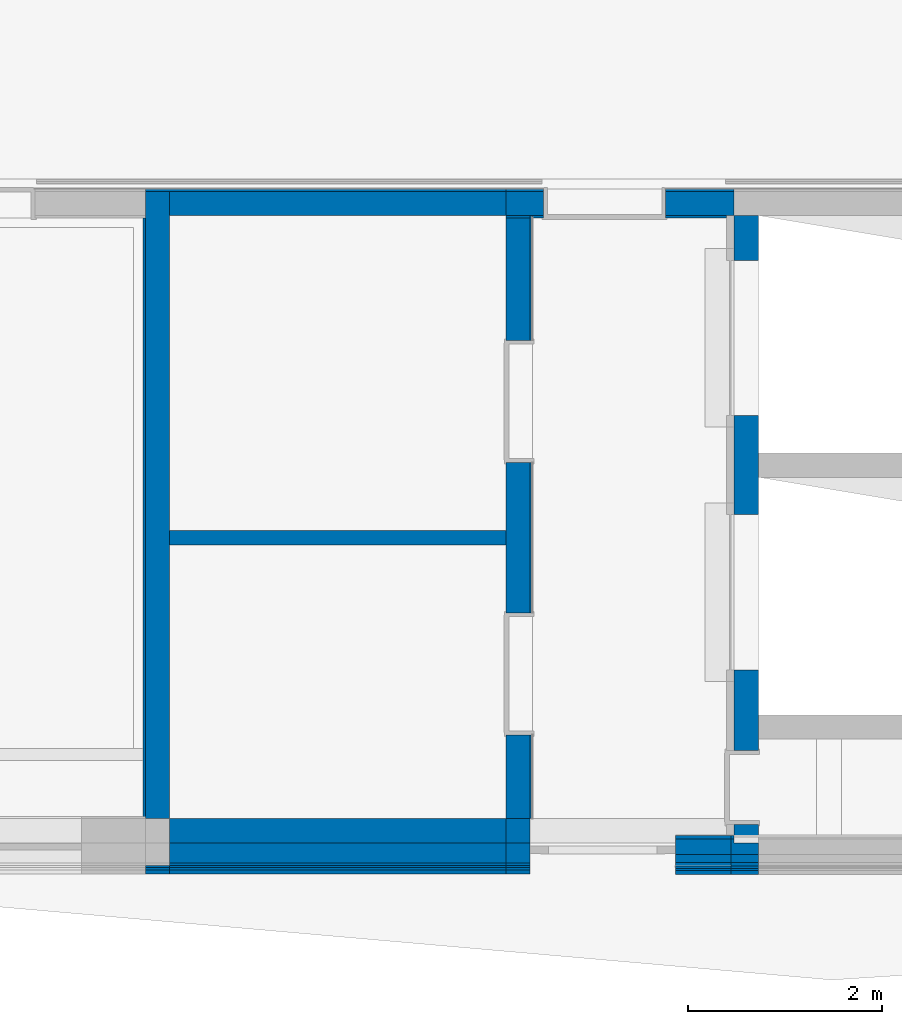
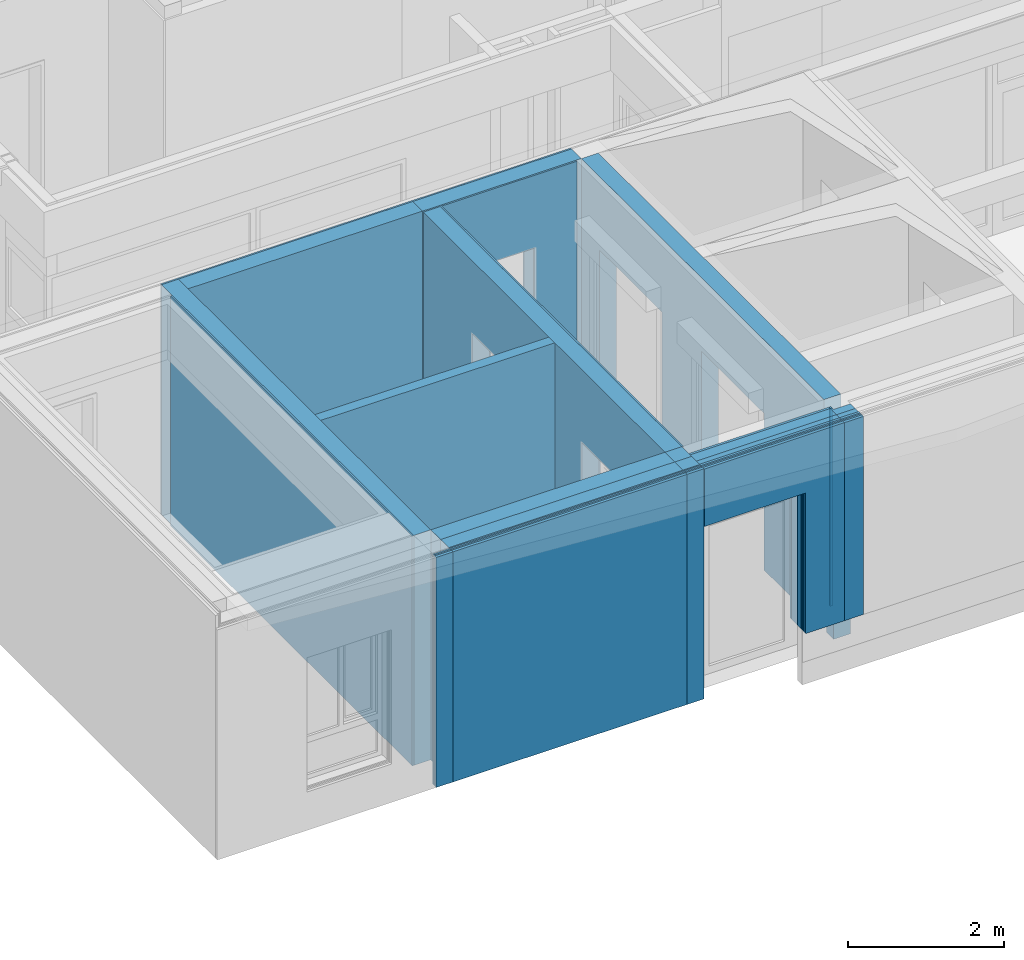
# One storey, part 22 of 207: 40 walls, 17 openings.
"""IFC4 building model written with IfcOpenShell, lengths in metres."""

from ifc_helpers import new_model, entity, si_unit, converted_unit, derived_unit, frame, frame_2d, origin, origin_with_axes, place, context, subcontext, project, spatial, polyline, rectangle, outline, extrude, clip, bounded_halfspace, material, element, save


model = new_model("IFC4")

# Units and contexts
model_context = context("Model", 3, precision=1e-05, world=origin())
body_context = subcontext(model_context, "Body", "Model", "MODEL_VIEW")
ifc_project = project(units=[si_unit("LENGTHUNIT", "METRE"), si_unit("AREAUNIT", "SQUARE_METRE"), si_unit("VOLUMEUNIT", "CUBIC_METRE"), si_unit("MASSUNIT", "GRAM", prefix="KILO"), converted_unit("PLANEANGLEUNIT", "DEGREE", entity("IfcPlaneAngleMeasure", 0.0174532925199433), si_unit("PLANEANGLEUNIT", "RADIAN"), dimensions=[0, 0, 0, 0, 0, 0, 0]), derived_unit("THERMALTRANSMITTANCEUNIT", [(si_unit("POWERUNIT", "WATT"), 1), (si_unit("THERMODYNAMICTEMPERATUREUNIT", "KELVIN"), -1), (si_unit("LENGTHUNIT", "METRE"), -2)]), derived_unit("VOLUMETRICFLOWRATEUNIT", [(si_unit("LENGTHUNIT", "METRE"), 3), (converted_unit("TIMEUNIT", "hour", entity("IfcTimeMeasure", 3600.0), si_unit("TIMEUNIT", "SECOND"), dimensions=[0, 0, 1, 0, 0, 0, 0]), -1), (si_unit("LENGTHUNIT", "METRE"), -1)])], contexts=[model_context])

# Site, building, storey
site_placement = place(None, origin())
site = spatial("IfcSite", under=ifc_project, at=site_placement, Name="Psychiatrie Neubau Wunstorf", CompositionType="ELEMENT")
building_placement = place(site_placement, origin())
building = spatial("IfcBuilding", under=site, at=building_placement, Name="Neubau H2 Stationsgebäude", CompositionType="ELEMENT")
storey_placement = place(building_placement, frame((0.0, 0.0, -0.2)))
storey = spatial("IfcBuildingStorey", under=building, at=storey_placement, Name="H2 Ebene 0", CompositionType="ELEMENT", Elevation=-0.2)

# Wall, opening
ifc_material_1 = material(Name="WA-LB")
wall_1_placement = place(storey_placement, frame((46.9900052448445, -6.1210003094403, 0.5), z_axis=(0.0, 0.0, 1.0), x_axis=(-1.0, 0.0, 0.0)))
wall_1 = element("IfcWall", 1, at=wall_1_placement, inside=storey, material=ifc_material_1, context=body_context, shape_type="SweptSolid", body=[
    extrude(rectangle(XDim=2.07400036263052, YDim=0.036, at=frame_2d((1.03700018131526, 0.018), x_axis=(1.0, 0.0))), origin_with_axes(), (0.0, 0.0, 1.0), 3.1),
])
opening_1_placement = place(wall_1_placement, frame((0.573974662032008, 0.0, -0.5), z_axis=(0.0, 1.0, 0.0), x_axis=(0.0, 0.0, 1.0)))
element("IfcOpeningElement", 2, at=opening_1_placement, cuts=wall_1, Name="Türöffnung", ObjectType="Opening", context=body_context, shape_type="SweptSolid", body=[
    extrude(outline(polyline([(2.7, 1.50002570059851), (2.7, 0.0), (0.0, 0.0), (0.0, 1.50002570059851), (2.7, 1.50002570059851)])), origin_with_axes(), (0.0, 0.0, 1.0), 0.036),
])

ifc_material_2 = material(Name="WA-HD")
wall_2_placement = place(storey_placement, frame((46.9900052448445, -6.1570003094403, 0.5), z_axis=(0.0, 0.0, 1.0), x_axis=(-1.0, 0.0, 0.0)))
wall_2 = element("IfcWall", 3, at=wall_2_placement, inside=storey, material=ifc_material_2, context=body_context, shape_type="SweptSolid", body=[
    extrude(rectangle(XDim=2.07400036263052, YDim=0.16, at=frame_2d((1.03700018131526, 0.08), x_axis=(1.0, 0.0))), origin_with_axes(), (0.0, 0.0, 1.0), 3.1),
])
opening_2_placement = place(wall_2_placement, frame((0.573974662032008, 0.0, -0.5), z_axis=(0.0, 1.0, 0.0), x_axis=(0.0, 0.0, 1.0)))
element("IfcOpeningElement", 4, at=opening_2_placement, cuts=wall_2, Name="Türöffnung", ObjectType="Opening", context=body_context, shape_type="SweptSolid", body=[
    extrude(outline(polyline([(2.7, 1.50002570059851), (2.7, 0.0), (0.0, 0.0), (0.0, 1.50002570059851), (2.7, 1.50002570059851)])), origin_with_axes(), (0.0, 0.0, 1.0), 0.16),
])

ifc_material_3 = material(Name="WA-DL")
wall_3_placement = place(storey_placement, frame((46.9900052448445, -6.3170003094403, 0.5), z_axis=(0.0, 0.0, 1.0), x_axis=(-1.0, 0.0, 0.0)))
wall_3 = element("IfcWall", 5, at=wall_3_placement, inside=storey, material=ifc_material_3, context=body_context, shape_type="SweptSolid", body=[
    extrude(rectangle(XDim=2.07400036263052, YDim=0.08, at=frame_2d((1.03700018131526, 0.04), x_axis=(1.0, 0.0))), origin_with_axes(), (0.0, 0.0, 1.0), 3.1),
])
opening_3_placement = place(wall_3_placement, frame((0.573974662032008, 0.0, -0.5), z_axis=(0.0, 1.0, 0.0), x_axis=(0.0, 0.0, 1.0)))
element("IfcOpeningElement", 6, at=opening_3_placement, cuts=wall_3, Name="Türöffnung", ObjectType="Opening", context=body_context, shape_type="SweptSolid", body=[
    extrude(outline(polyline([(2.7, 1.50002570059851), (2.7, 0.0), (0.0, 0.0), (0.0, 1.50002570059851), (2.7, 1.50002570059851)])), origin_with_axes(), (0.0, 0.0, 1.0), 0.08),
])

ifc_material_4 = material(Name="WA-TP")
wall_4_placement = place(storey_placement, frame((46.9900052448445, -6.3970003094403, 0.5), z_axis=(0.0, 0.0, 1.0), x_axis=(-1.0, 0.0, 0.0)))
wall_4 = element("IfcWall", 7, at=wall_4_placement, inside=storey, material=ifc_material_4, context=body_context, shape_type="SweptSolid", body=[
    extrude(rectangle(XDim=2.07400036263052, YDim=0.036, at=frame_2d((1.03700018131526, 0.018), x_axis=(1.0, 0.0))), origin_with_axes(), (0.0, 0.0, 1.0), 3.1),
])
opening_4_placement = place(wall_4_placement, frame((0.573974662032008, 0.0, -0.5), z_axis=(0.0, 1.0, 0.0), x_axis=(0.0, 0.0, 1.0)))
element("IfcOpeningElement", 8, at=opening_4_placement, cuts=wall_4, Name="Türöffnung", ObjectType="Opening", context=body_context, shape_type="SweptSolid", body=[
    extrude(outline(polyline([(2.7, 1.50002570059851), (2.7, 0.0), (0.0, 0.0), (0.0, 1.50002570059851), (2.7, 1.50002570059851)])), origin_with_axes(), (0.0, 0.0, 1.0), 0.036),
])

ifc_material_5 = material(Name="WA-KL")
wall_5_placement = place(storey_placement, frame((46.9900052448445, -6.4330003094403, 0.5), z_axis=(0.0, 0.0, 1.0), x_axis=(-1.0, 0.0, 0.0)))
wall_5 = element("IfcWall", 9, at=wall_5_placement, inside=storey, material=ifc_material_5, context=body_context, shape_type="SweptSolid", body=[
    extrude(rectangle(XDim=2.07400036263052, YDim=0.024, at=frame_2d((1.03700018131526, 0.012), x_axis=(1.0, 0.0))), origin_with_axes(), (0.0, 0.0, 1.0), 3.1),
])
opening_5_placement = place(wall_5_placement, frame((0.573974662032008, 0.0, -0.5), z_axis=(0.0, 1.0, 0.0), x_axis=(0.0, 0.0, 1.0)))
element("IfcOpeningElement", 10, at=opening_5_placement, cuts=wall_5, Name="Türöffnung", ObjectType="Opening", context=body_context, shape_type="SweptSolid", body=[
    extrude(outline(polyline([(2.7, 1.50002570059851), (2.7, 0.0), (0.0, 0.0), (0.0, 1.50002570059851), (2.7, 1.50002570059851)])), origin_with_axes(), (0.0, 0.0, 1.0), 0.024),
])

ifc_material_6 = material(Name="WA-TL")
wall_6_placement = place(storey_placement, frame((46.9900052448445, -6.4570003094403, 0.5), z_axis=(0.0, 0.0, 1.0), x_axis=(-1.0, 0.0, 0.0)))
wall_6 = element("IfcWall", 11, at=wall_6_placement, inside=storey, material=ifc_material_6, context=body_context, shape_type="SweptSolid", body=[
    extrude(rectangle(XDim=2.07400036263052, YDim=0.024, at=frame_2d((1.03700018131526, 0.012), x_axis=(1.0, 0.0))), origin_with_axes(), (0.0, 0.0, 1.0), 3.1),
])
opening_6_placement = place(wall_6_placement, frame((0.573974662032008, 0.0, -0.5), z_axis=(0.0, 1.0, 0.0), x_axis=(0.0, 0.0, 1.0)))
element("IfcOpeningElement", 12, at=opening_6_placement, cuts=wall_6, Name="Türöffnung", ObjectType="Opening", context=body_context, shape_type="SweptSolid", body=[
    extrude(outline(polyline([(2.7, 1.50002570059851), (2.7, 0.0), (0.0, 0.0), (0.0, 1.50002570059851), (2.7, 1.50002570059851)])), origin_with_axes(), (0.0, 0.0, 1.0), 0.024),
])

ifc_material_7 = material(Name="WA-HS")
wall_7_placement = place(storey_placement, frame((46.9900052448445, -6.4810003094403, 0.5), z_axis=(0.0, 0.0, 1.0), x_axis=(-1.0, 0.0, 0.0)))
wall_7 = element("IfcWall", 13, at=wall_7_placement, inside=storey, material=ifc_material_7, context=body_context, shape_type="SweptSolid", body=[
    extrude(rectangle(XDim=2.07400036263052, YDim=0.042, at=frame_2d((1.03700018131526, 0.021), x_axis=(1.0, 0.0))), origin_with_axes(), (0.0, 0.0, 1.0), 3.1),
])
opening_7_placement = place(wall_7_placement, frame((0.573974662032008, 0.0, -0.5), z_axis=(0.0, 1.0, 0.0), x_axis=(0.0, 0.0, 1.0)))
element("IfcOpeningElement", 14, at=opening_7_placement, cuts=wall_7, Name="Türöffnung", ObjectType="Opening", context=body_context, shape_type="SweptSolid", body=[
    extrude(outline(polyline([(2.7, 1.50002570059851), (2.7, 0.0), (0.0, 0.0), (0.0, 1.50002570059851), (2.7, 1.50002570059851)])), origin_with_axes(), (0.0, 0.0, 1.0), 0.042),
])

# Walls
ifc_material_8 = material(Name="WA-LB")
wall_8_placement = place(storey_placement, frame((47.0200048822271, -6.1210003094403, 0.5), z_axis=(0.0, 0.0, 1.0), x_axis=(-1.0, 0.0, 0.0)))
element("IfcWall", 15, at=wall_8_placement, inside=storey, material=ifc_material_8, context=body_context, shape_type="SweptSolid", body=[
    extrude(rectangle(XDim=0.0299996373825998, YDim=0.036, at=frame_2d((0.0149998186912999, 0.018), x_axis=(1.0, 0.0))), origin_with_axes(), (0.0, 0.0, 1.0), 3.1),
])
ifc_material_9 = material(Name="WA-HD")
wall_9_placement = place(storey_placement, frame((47.2700048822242, -6.19500030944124, 0.5), z_axis=(0.0, 0.0, 1.0), x_axis=(-0.988644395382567, 0.150273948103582, 0.0)))
element("IfcWall", 16, at=wall_9_placement, inside=storey, material=ifc_material_9, context=body_context, shape_type="SweptSolid", body=[
    extrude(outline(polyline([(-0.00561514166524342, -0.16269126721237), (0.0240438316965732, -0.158183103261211), (0.0, 0.0), (-0.276820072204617, -0.0420766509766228), (-0.258486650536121, -0.16269126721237), (-0.0113255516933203, -0.125122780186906), (-0.00561514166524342, -0.16269126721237)])), frame((0.258486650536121, 0.16269126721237, 0.0), z_axis=(0.0, 0.0, 1.0), x_axis=(1.0, 0.0, 0.0)), (0.0, 0.0, 1.0), 3.1),
])
ifc_material_10 = material(Name="WA-DL")
wall_10_placement = place(storey_placement, frame((47.2700048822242, -6.3170003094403, 0.5), z_axis=(0.0, 0.0, 1.0), x_axis=(-1.0, 0.0, 0.0)))
element("IfcWall", 17, at=wall_10_placement, inside=storey, material=ifc_material_10, context=body_context, shape_type="SweptSolid", body=[
    extrude(rectangle(XDim=0.279999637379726, YDim=0.08, at=frame_2d((0.139999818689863, 0.04), x_axis=(1.0, 0.0))), origin_with_axes(), (0.0, 0.0, 1.0), 3.1),
])
ifc_material_11 = material(Name="WA-TP")
wall_11_placement = place(storey_placement, frame((47.2700048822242, -6.3970003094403, 0.5), z_axis=(0.0, 0.0, 1.0), x_axis=(-1.0, 0.0, 0.0)))
element("IfcWall", 18, at=wall_11_placement, inside=storey, material=ifc_material_11, context=body_context, shape_type="SweptSolid", body=[
    extrude(rectangle(XDim=0.279999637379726, YDim=0.036, at=frame_2d((0.139999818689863, 0.018), x_axis=(1.0, 0.0))), origin_with_axes(), (0.0, 0.0, 1.0), 3.1),
])
ifc_material_12 = material(Name="WA-KL")
wall_12_placement = place(storey_placement, frame((47.2700048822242, -6.4330003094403, 0.5), z_axis=(0.0, 0.0, 1.0), x_axis=(-1.0, 0.0, 0.0)))
element("IfcWall", 19, at=wall_12_placement, inside=storey, material=ifc_material_12, context=body_context, shape_type="SweptSolid", body=[
    extrude(rectangle(XDim=0.279999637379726, YDim=0.024, at=frame_2d((0.139999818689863, 0.012), x_axis=(1.0, 0.0))), origin_with_axes(), (0.0, 0.0, 1.0), 3.1),
])
ifc_material_13 = material(Name="WA-TL")
wall_13_placement = place(storey_placement, frame((47.2700048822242, -6.4570003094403, 0.5), z_axis=(0.0, 0.0, 1.0), x_axis=(-1.0, 0.0, 0.0)))
element("IfcWall", 20, at=wall_13_placement, inside=storey, material=ifc_material_13, context=body_context, shape_type="SweptSolid", body=[
    extrude(rectangle(XDim=0.279999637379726, YDim=0.024, at=frame_2d((0.139999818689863, 0.012), x_axis=(1.0, 0.0))), origin_with_axes(), (0.0, 0.0, 1.0), 3.1),
])
ifc_material_14 = material(Name="WA-HS")
wall_14_placement = place(storey_placement, frame((47.2700048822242, -6.4810003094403, 0.5), z_axis=(0.0, 0.0, 1.0), x_axis=(-1.0, 0.0, 0.0)))
element("IfcWall", 21, at=wall_14_placement, inside=storey, material=ifc_material_14, context=body_context, shape_type="SweptSolid", body=[
    extrude(rectangle(XDim=0.279999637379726, YDim=0.042, at=frame_2d((0.139999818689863, 0.021), x_axis=(1.0, 0.0))), origin_with_axes(), (0.0, 0.0, 1.0), 3.1),
])
ifc_material_15 = material(Name="WA-KL")
wall_15_placement = place(storey_placement, frame((41.2, -6.426000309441, 0.0), z_axis=(0.0, 0.0, 1.0), x_axis=(-1.0, 0.0, 0.0)))
element("IfcWall", 22, at=wall_15_placement, inside=storey, material=ifc_material_15, context=body_context, shape_type="SweptSolid", body=[
    extrude(rectangle(XDim=0.25, YDim=0.024, at=frame_2d((0.125, 0.012), x_axis=(1.0, 0.0))), origin_with_axes(), (0.0, 0.0, 1.0), 3.6),
])
ifc_material_16 = material(Name="WA-TL")
wall_16_placement = place(storey_placement, frame((41.2, -6.450000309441, 0.0), z_axis=(0.0, 0.0, 1.0), x_axis=(-1.0, 0.0, 0.0)))
element("IfcWall", 23, at=wall_16_placement, inside=storey, material=ifc_material_16, context=body_context, shape_type="SweptSolid", body=[
    extrude(rectangle(XDim=0.25, YDim=0.024, at=frame_2d((0.125, 0.012), x_axis=(1.0, 0.0))), origin_with_axes(), (0.0, 0.0, 1.0), 3.6),
])
ifc_material_17 = material(Name="WA-HS")
wall_17_placement = place(storey_placement, frame((41.2, -6.474000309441, 0.0), z_axis=(0.0, 0.0, 1.0), x_axis=(-1.0, 0.0, 0.0)))
element("IfcWall", 24, at=wall_17_placement, inside=storey, material=ifc_material_17, context=body_context, shape_type="SweptSolid", body=[
    extrude(rectangle(XDim=0.25, YDim=0.042, at=frame_2d((0.125, 0.021), x_axis=(1.0, 0.0))), origin_with_axes(), (0.0, 0.0, 1.0), 3.6),
])
ifc_material_18 = material(Name="WA-STB")
wall_18_placement = place(storey_placement, frame((44.916004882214, -5.945000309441, 0.0), z_axis=(0.0, 0.0, 1.0), x_axis=(-1.0, 0.0, 0.0)))
element("IfcWall", 25, at=wall_18_placement, inside=storey, material=ifc_material_18, context=body_context, shape_type="SweptSolid", body=[
    extrude(rectangle(XDim=0.25, YDim=0.25, at=frame_2d((0.125, 0.125), x_axis=(1.0, 0.0))), origin_with_axes(), (0.0, 0.0, 1.0), 3.6),
])
ifc_material_19 = material(Name="WA-DL")
wall_19_placement = place(storey_placement, frame((44.916004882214, -6.195000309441, 0.0), z_axis=(0.0, 0.0, 1.0), x_axis=(-1.0, 0.0, 0.0)))
element("IfcWall", 26, at=wall_19_placement, inside=storey, material=ifc_material_19, context=body_context, shape_type="SweptSolid", body=[
    extrude(rectangle(XDim=0.25, YDim=0.21, at=frame_2d((0.125, 0.105), x_axis=(1.0, 0.0))), origin_with_axes(), (0.0, 0.0, 1.0), 3.6),
])
ifc_material_20 = material(Name="WA-LB")
wall_20_placement = place(storey_placement, frame((44.916004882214, -6.405000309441, 0.0), z_axis=(0.0, 0.0, 1.0), x_axis=(-1.0, 0.0, 0.0)))
element("IfcWall", 27, at=wall_20_placement, inside=storey, material=ifc_material_20, context=body_context, shape_type="SweptSolid", body=[
    extrude(rectangle(XDim=0.25, YDim=0.021, at=frame_2d((0.125, 0.0105), x_axis=(1.0, 0.0))), origin_with_axes(), (0.0, 0.0, 1.0), 3.6),
])
ifc_material_21 = material(Name="WA-KL")
wall_21_placement = place(storey_placement, frame((44.916004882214, -6.426000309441, 0.0), z_axis=(0.0, 0.0, 1.0), x_axis=(-1.0, 0.0, 0.0)))
element("IfcWall", 28, at=wall_21_placement, inside=storey, material=ifc_material_21, context=body_context, shape_type="SweptSolid", body=[
    extrude(rectangle(XDim=0.25, YDim=0.024, at=frame_2d((0.125, 0.012), x_axis=(1.0, 0.0))), origin_with_axes(), (0.0, 0.0, 1.0), 3.6),
])
ifc_material_22 = material(Name="WA-TL")
wall_22_placement = place(storey_placement, frame((44.916004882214, -6.450000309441, 0.0), z_axis=(0.0, 0.0, 1.0), x_axis=(-1.0, 0.0, 0.0)))
element("IfcWall", 29, at=wall_22_placement, inside=storey, material=ifc_material_22, context=body_context, shape_type="SweptSolid", body=[
    extrude(rectangle(XDim=0.25, YDim=0.024, at=frame_2d((0.125, 0.012), x_axis=(1.0, 0.0))), origin_with_axes(), (0.0, 0.0, 1.0), 3.6),
])
ifc_material_23 = material(Name="WA-HS")
wall_23_placement = place(storey_placement, frame((44.916004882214, -6.474000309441, 0.0), z_axis=(0.0, 0.0, 1.0), x_axis=(-1.0, 0.0, 0.0)))
element("IfcWall", 30, at=wall_23_placement, inside=storey, material=ifc_material_23, context=body_context, shape_type="SweptSolid", body=[
    extrude(rectangle(XDim=0.25, YDim=0.042, at=frame_2d((0.125, 0.021), x_axis=(1.0, 0.0))), origin_with_axes(), (0.0, 0.0, 1.0), 3.6),
])
ifc_material_24 = material(Name="WA-STB")
wall_24_placement = place(storey_placement, frame((44.666004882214, -5.945000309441, 0.0), z_axis=(0.0, 0.0, 1.0), x_axis=(-1.0, 0.0, 0.0)))
element("IfcWall", 31, at=wall_24_placement, inside=storey, material=ifc_material_24, context=body_context, shape_type="SweptSolid", body=[
    extrude(rectangle(XDim=3.46600488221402, YDim=0.25, at=frame_2d((1.73300244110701, 0.125), x_axis=(1.0, 0.0))), origin_with_axes(), (0.0, 0.0, 1.0), 3.6),
])
ifc_material_25 = material(Name="WA-DL")
wall_25_placement = place(storey_placement, frame((44.666004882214, -6.195000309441, 0.0), z_axis=(0.0, 0.0, 1.0), x_axis=(-1.0, 0.0, 0.0)))
element("IfcWall", 32, at=wall_25_placement, inside=storey, material=ifc_material_25, context=body_context, shape_type="SweptSolid", body=[
    extrude(rectangle(XDim=3.46600488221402, YDim=0.21, at=frame_2d((1.73300244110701, 0.105), x_axis=(1.0, 0.0))), origin_with_axes(), (0.0, 0.0, 1.0), 3.6),
])
ifc_material_26 = material(Name="WA-LB")
wall_26_placement = place(storey_placement, frame((44.666004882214, -6.405000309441, 0.0), z_axis=(0.0, 0.0, 1.0), x_axis=(-1.0, 0.0, 0.0)))
element("IfcWall", 33, at=wall_26_placement, inside=storey, material=ifc_material_26, context=body_context, shape_type="SweptSolid", body=[
    extrude(rectangle(XDim=3.46600488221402, YDim=0.021, at=frame_2d((1.73300244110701, 0.0105), x_axis=(1.0, 0.0))), origin_with_axes(), (0.0, 0.0, 1.0), 3.6),
])
ifc_material_27 = material(Name="WA-KL")
wall_27_placement = place(storey_placement, frame((44.666004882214, -6.426000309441, 0.0), z_axis=(0.0, 0.0, 1.0), x_axis=(-1.0, 0.0, 0.0)))
element("IfcWall", 34, at=wall_27_placement, inside=storey, material=ifc_material_27, context=body_context, shape_type="SweptSolid", body=[
    extrude(rectangle(XDim=3.46600488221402, YDim=0.024, at=frame_2d((1.73300244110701, 0.012), x_axis=(1.0, 0.0))), origin_with_axes(), (0.0, 0.0, 1.0), 3.6),
])
ifc_material_28 = material(Name="WA-TL")
wall_28_placement = place(storey_placement, frame((44.666004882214, -6.450000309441, 0.0), z_axis=(0.0, 0.0, 1.0), x_axis=(-1.0, 0.0, 0.0)))
element("IfcWall", 35, at=wall_28_placement, inside=storey, material=ifc_material_28, context=body_context, shape_type="SweptSolid", body=[
    extrude(rectangle(XDim=3.46600488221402, YDim=0.024, at=frame_2d((1.73300244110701, 0.012), x_axis=(1.0, 0.0))), origin_with_axes(), (0.0, 0.0, 1.0), 3.6),
])
ifc_material_29 = material(Name="WA-HS")
wall_29_placement = place(storey_placement, frame((44.666004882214, -6.474000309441, 0.0), z_axis=(0.0, 0.0, 1.0), x_axis=(-1.0, 0.0, 0.0)))
element("IfcWall", 36, at=wall_29_placement, inside=storey, material=ifc_material_29, context=body_context, shape_type="SweptSolid", body=[
    extrude(rectangle(XDim=3.46600488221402, YDim=0.042, at=frame_2d((1.73300244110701, 0.021), x_axis=(1.0, 0.0))), origin_with_axes(), (0.0, 0.0, 1.0), 3.6),
])
ifc_material_30 = material(Name="WI-LB")
wall_30_placement = place(storey_placement, frame((41.2, -3.1225003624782, 0.0)))
element("IfcWall", 37, at=wall_30_placement, inside=storey, material=ifc_material_30, context=body_context, shape_type="SweptSolid", body=[
    extrude(rectangle(XDim=3.46600488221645, YDim=0.15, at=frame_2d((1.73300244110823, 0.075), x_axis=(1.0, 0.0))), origin_with_axes(), (0.0, 0.0, 1.0), 3.6),
])

# Wall, openings
ifc_material_31 = material(Name="WI-LB")
wall_31_placement = place(storey_placement, frame((44.9410048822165, -5.94500030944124, 0.0), z_axis=(0.0, 0.0, 1.0), x_axis=(0.0, 1.0, 0.0)))
wall_31 = element("IfcWall", 38, at=wall_31_placement, inside=storey, material=ifc_material_31, context=body_context, shape_type="SweptSolid", body=[
    extrude(rectangle(XDim=6.22000030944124, YDim=0.025, at=frame_2d((3.11000015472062, 0.0125), x_axis=(1.0, 0.0))), origin_with_axes(), (0.0, 0.0, 1.0), 3.6),
])
opening_8_placement = place(wall_31_placement, frame((0.862499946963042, 0.0, 0.0), z_axis=(0.0, 1.0, 0.0), x_axis=(0.0, 0.0, 1.0)))
element("IfcOpeningElement", 39, at=opening_8_placement, cuts=wall_31, Name="SMT", ObjectType="Opening", context=body_context, shape_type="SweptSolid", body=[
    extrude(outline(polyline([(2.46, 1.26), (2.46, 0.0), (0.0, 0.0), (0.0, 1.26), (2.46, 1.26)])), origin_with_axes(), (0.0, 0.0, 1.0), 0.025),
])
opening_9_placement = place(wall_31_placement, frame((3.67249994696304, 0.0, 0.0), z_axis=(0.0, 1.0, 0.0), x_axis=(0.0, 0.0, 1.0)))
element("IfcOpeningElement", 40, at=opening_9_placement, cuts=wall_31, Name="SMT", ObjectType="Opening", context=body_context, shape_type="SweptSolid", body=[
    extrude(outline(polyline([(2.46, 1.26), (2.46, 0.0), (0.0, 0.0), (0.0, 1.26), (2.46, 1.26)])), origin_with_axes(), (0.0, 0.0, 1.0), 0.025),
])

ifc_material_32 = material(Name="WI-STB")
wall_32_placement = place(storey_placement, frame((44.9160048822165, -5.94500030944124, 0.0), z_axis=(0.0, 0.0, 1.0), x_axis=(0.0, 1.0, 0.0)))
wall_32 = element("IfcWall", 41, at=wall_32_placement, inside=storey, material=ifc_material_32, context=body_context, shape_type="SweptSolid", body=[
    extrude(rectangle(XDim=6.22000030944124, YDim=0.25, at=frame_2d((3.11000015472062, 0.125), x_axis=(1.0, 0.0))), origin_with_axes(), (0.0, 0.0, 1.0), 3.6),
])
opening_10_placement = place(wall_32_placement, frame((3.67249994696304, 0.0, 0.0), z_axis=(0.0, 1.0, 0.0), x_axis=(0.0, 0.0, 1.0)))
element("IfcOpeningElement", 42, at=opening_10_placement, cuts=wall_32, Name="SMT", ObjectType="Opening", context=body_context, shape_type="SweptSolid", body=[
    extrude(outline(polyline([(2.46, 1.26), (2.46, 0.0), (0.0, 0.0), (0.0, 1.26), (2.46, 1.26)])), origin_with_axes(), (0.0, 0.0, 1.0), 0.25),
])
opening_11_placement = place(wall_32_placement, frame((0.862499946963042, 0.0, 0.0), z_axis=(0.0, 1.0, 0.0), x_axis=(0.0, 0.0, 1.0)))
element("IfcOpeningElement", 43, at=opening_11_placement, cuts=wall_32, Name="SMT", ObjectType="Opening", context=body_context, shape_type="SweptSolid", body=[
    extrude(outline(polyline([(2.46, 1.26), (2.46, 0.0), (0.0, 0.0), (0.0, 1.26), (2.46, 1.26)])), origin_with_axes(), (0.0, 0.0, 1.0), 0.25),
])

# Walls
ifc_material_33 = material(Name="WI-STB")
wall_33_placement = place(storey_placement, frame((41.2, -5.945000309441, 0.0), z_axis=(0.0, 0.0, 1.0), x_axis=(0.0, 1.0, 0.0)))
element("IfcWall", 44, at=wall_33_placement, inside=storey, material=ifc_material_33, context=body_context, shape_type="SweptSolid", body=[
    extrude(rectangle(XDim=6.470000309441, YDim=0.25, at=frame_2d((3.2350001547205, 0.125), x_axis=(1.0, 0.0))), origin_with_axes(), (0.0, 0.0, 1.0), 3.6),
])
ifc_material_34 = material(Name="WI-LB")
wall_34_placement = place(storey_placement, frame((40.95, -5.945000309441, 0.0), z_axis=(0.0, 0.0, 1.0), x_axis=(0.0, 1.0, 0.0)))
element("IfcWall", 45, at=wall_34_placement, inside=storey, material=ifc_material_34, context=body_context, shape_type="SweptSolid", body=[
    extrude(rectangle(XDim=6.196000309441, YDim=0.025, at=frame_2d((3.0980001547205, 0.0125), x_axis=(1.0, 0.0))), origin_with_axes(), (0.0, 0.0, 1.0), 3.6),
])

# Wall, openings
ifc_material_35 = material(Name="WI-STB")
wall_35_placement = place(storey_placement, frame((47.2700048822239, -6.19500030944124, 0.0), z_axis=(0.0, 0.0, 1.0), x_axis=(0.0, 1.0, 0.0)))
wall_35 = element("IfcWall", 46, at=wall_35_placement, inside=storey, material=ifc_material_35, context=body_context, shape_type="Clipping", body=[
    clip(extrude(rectangle(XDim=6.47000030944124, YDim=0.25, at=frame_2d((3.23500015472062, 0.125), x_axis=(1.0, 0.0))), origin_with_axes(), (0.0, 0.0, 1.0), 3.6), bounded_halfspace(frame((0.125, 0.125, 3.0), z_axis=(0.0, 0.0, -1.0), x_axis=(-1.0, 0.0, 0.0)), True, origin_with_axes(), polyline([(0.25, 0.25), (0.0, 0.25), (0.0, 0.0), (0.25, 0.0), (0.25, 0.25)]))),
])
opening_12_placement = place(wall_35_placement, frame((6.00764812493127, 0.25, 0.0), z_axis=(0.0, -1.0, 0.0), x_axis=(0.0, 0.0, 1.0)))
element("IfcOpeningElement", 47, at=opening_12_placement, cuts=wall_35, Name="Türöffnung", ObjectType="Opening", context=body_context, shape_type="SweptSolid", body=[
    extrude(outline(polyline([(2.45, 1.6), (2.45, 0.0), (0.0, 0.0), (0.0, 1.6), (2.45, 1.6)])), origin_with_axes(), (0.0, 0.0, 1.0), 0.25),
])
opening_13_placement = place(wall_35_placement, frame((3.38501220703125, 0.25, 0.0), z_axis=(0.0, -1.0, 0.0), x_axis=(0.0, 0.0, 1.0)))
element("IfcOpeningElement", 48, at=opening_13_placement, cuts=wall_35, Name="Türöffnung", ObjectType="Opening", context=body_context, shape_type="SweptSolid", body=[
    extrude(outline(polyline([(2.45, 1.6), (2.45, 0.0), (0.0, 0.0), (0.0, 1.6), (2.45, 1.6)])), origin_with_axes(), (0.0, 0.0, 1.0), 0.25),
])
opening_14_placement = place(wall_35_placement, frame((0.951, 0.25, 0.0), z_axis=(0.0, -1.0, 0.0), x_axis=(0.0, 0.0, 1.0)))
element("IfcOpeningElement", 49, at=opening_14_placement, cuts=wall_35, Name="Türöffnung", ObjectType="Opening", context=body_context, shape_type="SweptSolid", body=[
    extrude(outline(polyline([(2.46, 0.76), (2.46, 0.0), (0.0, 0.0), (0.0, 0.76), (2.46, 0.76)])), origin_with_axes(), (0.0, 0.0, 1.0), 0.25),
])

# Walls
ifc_material_36 = material(Name="WI-LB")
wall_36_placement = place(storey_placement, frame((44.6660048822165, 0.549, 0.0), z_axis=(0.0, 0.0, 1.0), x_axis=(-1.0, 0.0, 0.0)))
element("IfcWall", 50, at=wall_36_placement, inside=storey, material=ifc_material_36, context=body_context, shape_type="SweptSolid", body=[
    extrude(rectangle(XDim=3.71600488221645, YDim=0.024, at=frame_2d((1.85800244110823, 0.012), x_axis=(1.0, 0.0))), origin_with_axes(), (0.0, 0.0, 1.0), 3.6),
])
ifc_material_37 = material(Name="WI-STB")
wall_37_placement = place(storey_placement, frame((44.6660048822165, 0.525, 0.0), z_axis=(0.0, 0.0, 1.0), x_axis=(-1.0, 0.0, 0.0)))
element("IfcWall", 51, at=wall_37_placement, inside=storey, material=ifc_material_37, context=body_context, shape_type="SweptSolid", body=[
    extrude(rectangle(XDim=3.46600488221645, YDim=0.25, at=frame_2d((1.73300244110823, 0.125), x_axis=(1.0, 0.0))), origin_with_axes(), (0.0, 0.0, 1.0), 3.6),
])

# Wall, opening
ifc_material_38 = material(Name="WI-LB")
wall_38_placement = place(storey_placement, frame((47.0200048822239, 0.549, 0.0), z_axis=(0.0, 0.0, 1.0), x_axis=(-1.0, 0.0, 0.0)))
wall_38 = element("IfcWall", 52, at=wall_38_placement, inside=storey, material=ifc_material_38, context=body_context, shape_type="SweptSolid", body=[
    extrude(rectangle(XDim=2.35400000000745, YDim=0.024, at=frame_2d((1.17700000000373, 0.012), x_axis=(1.0, 0.0))), origin_with_axes(), (0.0, 0.0, 1.0), 3.6),
])
opening_15_placement = place(wall_38_placement, frame((1.96500000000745, 0.024, 0.0), z_axis=(0.0, -1.0, 0.0), x_axis=(0.0, 0.0, 1.0)))
element("IfcOpeningElement", 53, at=opening_15_placement, cuts=wall_38, Name="Türöffnung", ObjectType="Opening", context=body_context, shape_type="SweptSolid", body=[
    extrude(outline(polyline([(2.46, 1.26), (2.46, 0.0), (0.0, 0.0), (0.0, 1.26), (2.46, 1.26)])), origin_with_axes(), (0.0, 0.0, 1.0), 0.024),
])

ifc_material_39 = material(Name="WI-STB")
wall_39_placement = place(storey_placement, frame((47.0200048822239, 0.525, 0.0), z_axis=(0.0, 0.0, 1.0), x_axis=(-1.0, 0.0, 0.0)))
wall_39 = element("IfcWall", 54, at=wall_39_placement, inside=storey, material=ifc_material_39, context=body_context, shape_type="SweptSolid", body=[
    extrude(outline(polyline([(-2.35400000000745, -0.25), (0.0, -0.25), (0.0, 0.0), (-2.27400000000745, 0.0), (-2.35400000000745, 0.0), (-2.35400000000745, -0.25)])), frame((2.35400000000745, 0.25, 0.0), z_axis=(0.0, 0.0, 1.0), x_axis=(1.0, 0.0, 0.0)), (0.0, 0.0, 1.0), 3.6),
])
opening_16_placement = place(wall_39_placement, frame((1.96500000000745, 0.25, 0.0), z_axis=(0.0, -1.0, 0.0), x_axis=(0.0, 0.0, 1.0)))
element("IfcOpeningElement", 55, at=opening_16_placement, cuts=wall_39, Name="Türöffnung", ObjectType="Opening", context=body_context, shape_type="SweptSolid", body=[
    extrude(outline(polyline([(2.46, 1.26), (2.46, 0.0), (0.0, 0.0), (0.0, 1.26), (2.46, 1.26)])), origin_with_axes(), (0.0, 0.0, 1.0), 0.25),
])

ifc_material_40 = material(Name="WI-LB")
wall_40_placement = place(storey_placement, frame((46.9400048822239, 0.275, 0.0), z_axis=(0.0, 0.0, 1.0), x_axis=(-1.0, 0.0, 0.0)))
wall_40 = element("IfcWall", 56, at=wall_40_placement, inside=storey, material=ifc_material_40, context=body_context, shape_type="SweptSolid", body=[
    extrude(rectangle(XDim=1.99900000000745, YDim=0.025, at=frame_2d((0.999500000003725, 0.0125), x_axis=(1.0, 0.0))), origin_with_axes(), (0.0, 0.0, 1.0), 3.6),
    extrude(rectangle(XDim=0.25, YDim=0.025, at=frame_2d((0.125, 0.0125), x_axis=(1.0, 0.0))), frame((2.02400000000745, 0.0, 0.0), z_axis=(0.0, 0.0, 1.0), x_axis=(1.0, 0.0, 0.0)), (0.0, 0.0, 1.0), 3.6),
])
opening_17_placement = place(wall_40_placement, frame((1.88500000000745, 0.025, 0.0), z_axis=(0.0, -1.0, 0.0), x_axis=(0.0, 0.0, 1.0)))
element("IfcOpeningElement", 57, at=opening_17_placement, cuts=wall_40, Name="Türöffnung", ObjectType="Opening", context=body_context, shape_type="SweptSolid", body=[
    extrude(outline(polyline([(2.46, 1.26), (2.46, 0.0), (0.0, 0.0), (0.0, 1.26), (2.46, 1.26)])), origin_with_axes(), (0.0, 0.0, 1.0), 0.025),
])

save(model, "model.ifc")
